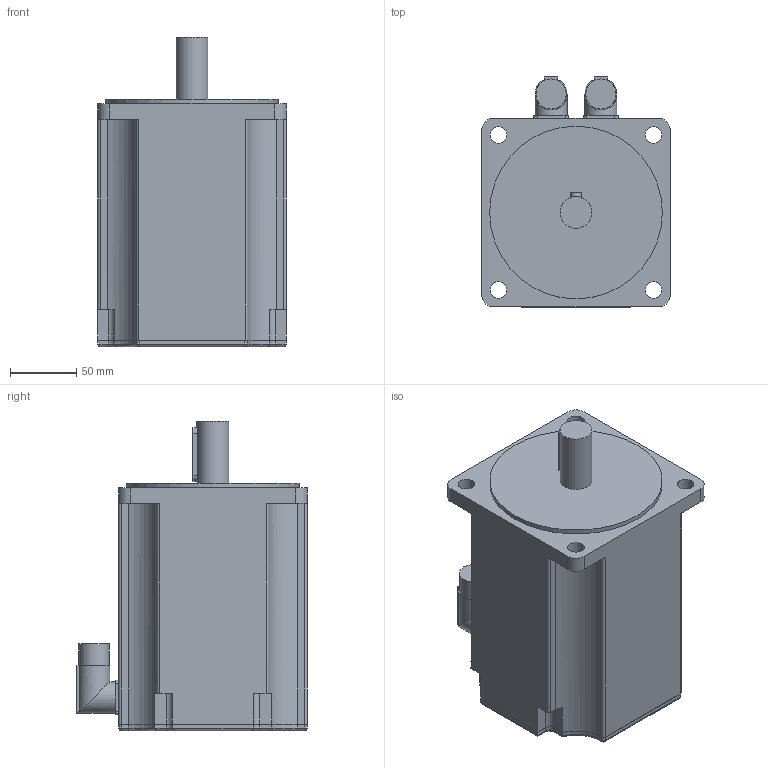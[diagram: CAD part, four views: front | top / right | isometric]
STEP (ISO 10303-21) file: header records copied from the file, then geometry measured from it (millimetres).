
FILE_DESCRIPTION(/* description */ (''),/* implementation_level */ '2;1');
FILE_NAME(/* name */ '\\Lafnas01\disegni\Archivi Lafert\3D\CAD 3D\MODELLI\Assiemi clienti\Serad\Modelli 3D Serad\B71Q\Resolver\Res With Brake\B7104Qxx6B052033.ipt.stp',/* time_stamp */ '2015-09-07T10:52:48+02:00',/* author */ ('Pastrello Ylenia'),/* organization */ (''),/* preprocessor_version */ 'ST-DEVELOPER v15.6',/* originating_system */ 'Autodesk Inventor 2015',/* authorisation */ '');
FILE_SCHEMA (('AUTOMOTIVE_DESIGN { 1 0 10303 214 3 1 1 }'));
Length unit declared in the file: millimetre
Products named in the file (1): B7104Qxx6B052033
Bounding box: 142 x 173.5 x 233 mm (x, y, z)
Volume: 3313188.4 mm3; surface area: 150097.1 mm2
Topology: 1 solids, 1 shells, 154 faces, 400 edges, 258 vertices
Faces by surface type: plane 72, cylinder 70, torus 8, sphere 4
Full cylindrical faces by diameter (mm): 12.5 x4, 22.7 x2, 24 x3, 130 x1
Entity records: 4790 total; most frequent: CARTESIAN_POINT 933, DIRECTION 828, ORIENTED_EDGE 772, EDGE_CURVE 386, AXIS2_PLACEMENT_3D 297, VERTEX_POINT 254, LINE 234, VECTOR 234
